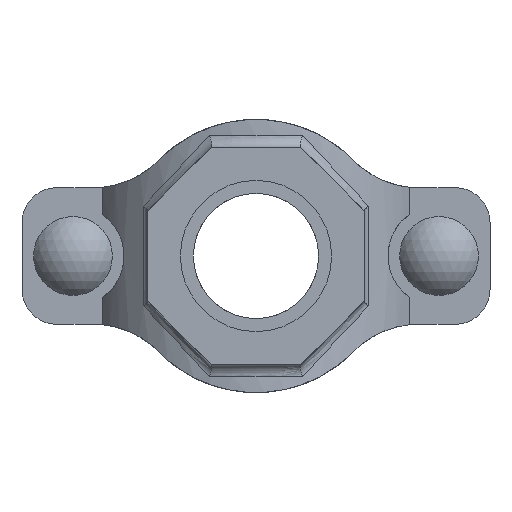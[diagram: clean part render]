
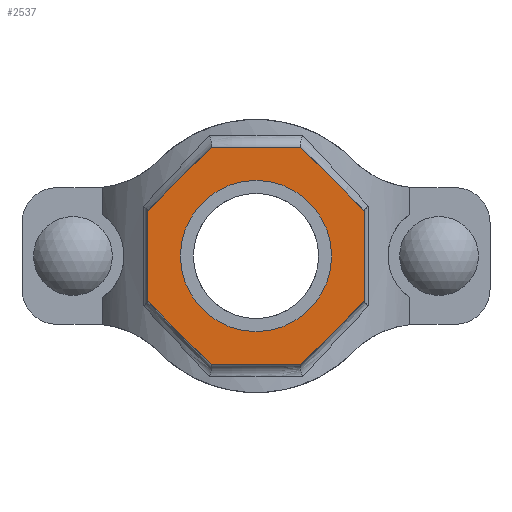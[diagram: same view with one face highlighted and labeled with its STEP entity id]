
A CAD part, front view. The second image highlights one B-rep face of the part: STEP entity #2537.
In plain terms, the highlighted planar face has unit normal (0, -1, 0) as drawn and (0, 1, 0) by its records, which use the part's own axes.
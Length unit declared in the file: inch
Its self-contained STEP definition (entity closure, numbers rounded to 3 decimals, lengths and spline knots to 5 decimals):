
#186=FACE_BOUND('',#457,.T.);
#305=FACE_OUTER_BOUND('',#456,.T.);
#456=EDGE_LOOP('',(#2126,#2127,#2128,#2129,#2130,#2131,#2132,#2133));
#457=EDGE_LOOP('',(#2134));
#594=LINE('',#4745,#780);
#597=LINE('',#4750,#783);
#599=LINE('',#4754,#785);
#601=LINE('',#4758,#787);
#637=LINE('',#5137,#823);
#639=LINE('',#5141,#825);
#641=LINE('',#5145,#827);
#643=LINE('',#5148,#829);
#780=VECTOR('',#3286,0.3937);
#783=VECTOR('',#3291,0.3937);
#785=VECTOR('',#3295,0.3937);
#787=VECTOR('',#3299,0.3937);
#823=VECTOR('',#3427,0.3937);
#825=VECTOR('',#3431,0.3937);
#827=VECTOR('',#3435,0.3937);
#829=VECTOR('',#3439,0.3937);
#915=CIRCLE('',#2800,0.83);
#1097=VERTEX_POINT('',#4742);
#1098=VERTEX_POINT('',#4744);
#1099=VERTEX_POINT('',#4748);
#1100=VERTEX_POINT('',#4752);
#1101=VERTEX_POINT('',#4756);
#1132=VERTEX_POINT('',#5020);
#1156=VERTEX_POINT('',#5136);
#1157=VERTEX_POINT('',#5140);
#1158=VERTEX_POINT('',#5144);
#1408=EDGE_CURVE('',#1098,#1097,#594,.T.);
#1411=EDGE_CURVE('',#1097,#1099,#597,.T.);
#1413=EDGE_CURVE('',#1099,#1100,#599,.T.);
#1415=EDGE_CURVE('',#1100,#1101,#601,.T.);
#1457=EDGE_CURVE('',#1132,#1132,#915,.T.);
#1489=EDGE_CURVE('',#1156,#1098,#637,.T.);
#1491=EDGE_CURVE('',#1157,#1156,#639,.T.);
#1493=EDGE_CURVE('',#1158,#1157,#641,.T.);
#1495=EDGE_CURVE('',#1101,#1158,#643,.T.);
#2126=ORIENTED_EDGE('',*,*,#1495,.T.);
#2127=ORIENTED_EDGE('',*,*,#1493,.T.);
#2128=ORIENTED_EDGE('',*,*,#1491,.T.);
#2129=ORIENTED_EDGE('',*,*,#1489,.T.);
#2130=ORIENTED_EDGE('',*,*,#1408,.T.);
#2131=ORIENTED_EDGE('',*,*,#1411,.T.);
#2132=ORIENTED_EDGE('',*,*,#1413,.T.);
#2133=ORIENTED_EDGE('',*,*,#1415,.T.);
#2134=ORIENTED_EDGE('',*,*,#1457,.T.);
#2278=PLANE('',#2825);
#2537=ADVANCED_FACE('',(#305,#186),#2278,.T.);
#2800=AXIS2_PLACEMENT_3D('',#5021,#3369,#3370);
#2825=AXIS2_PLACEMENT_3D('',#5149,#3440,#3441);
#3286=DIRECTION('',(0.,0.,1.));
#3291=DIRECTION('',(0.707,0.,0.707));
#3295=DIRECTION('',(1.,0.,0.));
#3299=DIRECTION('',(0.707,0.,-0.707));
#3369=DIRECTION('center_axis',(0.,-1.,0.));
#3370=DIRECTION('ref_axis',(-1.,0.,0.));
#3427=DIRECTION('',(-0.707,0.,0.707));
#3431=DIRECTION('',(-1.,0.,0.));
#3435=DIRECTION('',(-0.707,0.,-0.707));
#3439=DIRECTION('',(0.,0.,-1.));
#3440=DIRECTION('center_axis',(0.,1.,0.));
#3441=DIRECTION('ref_axis',(0.,0.,1.));
#4742=CARTESIAN_POINT('',(-1.19,3.,0.49291));
#4744=CARTESIAN_POINT('',(-1.19,3.,-0.49291));
#4745=CARTESIAN_POINT('',(-1.19,3.,0.49291));
#4748=CARTESIAN_POINT('',(-0.49291,3.,1.19));
#4750=CARTESIAN_POINT('',(-0.49291,3.,1.19));
#4752=CARTESIAN_POINT('',(0.49291,3.,1.19));
#4754=CARTESIAN_POINT('',(0.49291,3.,1.19));
#4756=CARTESIAN_POINT('',(1.19,3.,0.49291));
#4758=CARTESIAN_POINT('',(1.19,3.,0.49291));
#5020=CARTESIAN_POINT('',(0.83,3.,0.));
#5021=CARTESIAN_POINT('Origin',(0.,3.,0.));
#5136=CARTESIAN_POINT('',(-0.49291,3.,-1.19));
#5137=CARTESIAN_POINT('',(-1.19,3.,-0.49291));
#5140=CARTESIAN_POINT('',(0.49291,3.,-1.19));
#5141=CARTESIAN_POINT('',(-0.49291,3.,-1.19));
#5144=CARTESIAN_POINT('',(1.19,3.,-0.49291));
#5145=CARTESIAN_POINT('',(0.49291,3.,-1.19));
#5148=CARTESIAN_POINT('',(1.19,3.,-0.49291));
#5149=CARTESIAN_POINT('Origin',(0.,3.,0.));
